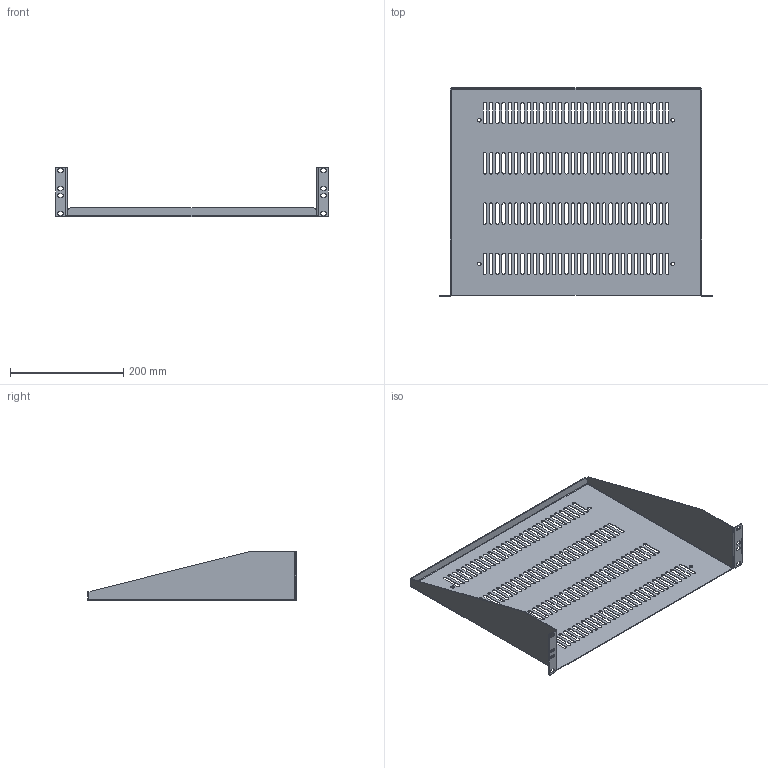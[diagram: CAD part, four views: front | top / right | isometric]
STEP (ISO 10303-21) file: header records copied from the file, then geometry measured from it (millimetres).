
FILE_DESCRIPTION( ( 'Unknown' ), '1' );
FILE_NAME( 'Q:/ACCESSORIES/SHELVES/RAS/WEB DRAWINGS/STEP/RASVL190314.stp', 'Unknown', ( 'Unknown' ), ( 'Unknown' ), 'PSStep 10.1', 'Unknown', ' ' );
FILE_SCHEMA( ( 'AUTOMOTIVE_DESIGN { 1 0 10303 214 1 1 1 1 }' ) );
Length unit declared in the file: millimetre
Products named in the file (1): 1
Bounding box: 482.75 x 368.3 x 88.09 mm (x, y, z)
Volume: 272070.9 mm3; surface area: 393510 mm2
Topology: 1 solids, 1 shells, 582 faces, 1720 edges, 1140 vertices
Faces by surface type: plane 298, cylinder 280, bspline 4
Full cylindrical faces by diameter (mm): 6.35 x4
Entity records: 24948 total; most frequent: CARTESIAN_POINT 3743, ORIENTED_EDGE 3424, DIRECTION 3410, EDGE_CURVE 1712, AXIS2_PLACEMENT_3D 1139, VERTEX_POINT 1136, LINE 1132, VECTOR 1132
